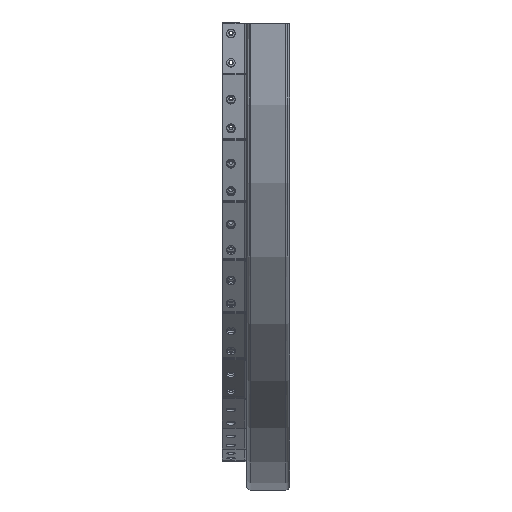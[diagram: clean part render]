
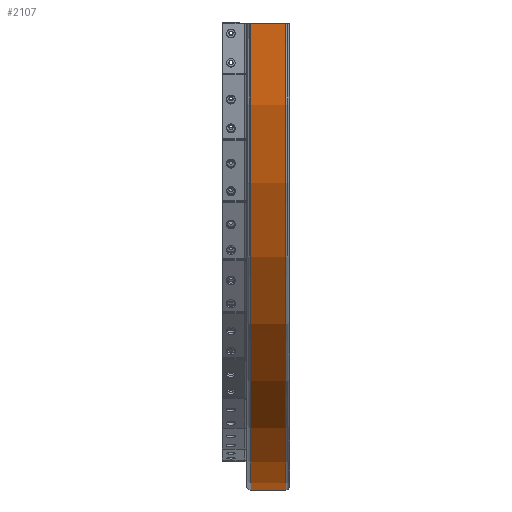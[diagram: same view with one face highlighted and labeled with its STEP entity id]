
A CAD part, left-side view. The second image highlights one B-rep face of the part: STEP entity #2107.
In plain terms, the highlighted cylindrical face has radius 389 mm (diameter 778 mm), a partial arc.
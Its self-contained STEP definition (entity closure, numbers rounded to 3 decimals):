
#2107=ADVANCED_FACE('',(#3591),#2895,.T.);
#2895=CYLINDRICAL_SURFACE('',#18690,389.);
#3591=FACE_OUTER_BOUND('',#4855,.T.);
#4855=EDGE_LOOP('',(#10210,#10211,#10212,#10213));
#6418=LINE('',#30054,#7450);
#6428=LINE('',#30273,#7460);
#7450=VECTOR('',#22501,1.);
#7460=VECTOR('',#22523,1.);
#10210=ORIENTED_EDGE('',*,*,#15656,.T.);
#10211=ORIENTED_EDGE('',*,*,#15512,.T.);
#10212=ORIENTED_EDGE('',*,*,#15657,.F.);
#10213=ORIENTED_EDGE('',*,*,#15487,.T.);
#13628=VERTEX_POINT('',#30053);
#13629=VERTEX_POINT('',#30055);
#13644=VERTEX_POINT('',#30272);
#13645=VERTEX_POINT('',#30274);
#15487=EDGE_CURVE('',#13629,#13628,#6418,.T.);
#15512=EDGE_CURVE('',#13645,#13644,#6428,.T.);
#15656=EDGE_CURVE('',#13628,#13645,#17093,.T.);
#15657=EDGE_CURVE('',#13629,#13644,#17094,.T.);
#17093=CIRCLE('',#18687,389.);
#17094=CIRCLE('',#18689,389.);
#18687=AXIS2_PLACEMENT_3D('',#30802,#22779,#22780);
#18689=AXIS2_PLACEMENT_3D('',#30804,#22783,#22784);
#18690=AXIS2_PLACEMENT_3D('',#30805,#22785,#22786);
#22501=DIRECTION('',(0.,-1.,0.));
#22523=DIRECTION('',(0.,1.,0.));
#22779=DIRECTION('',(0.,1.,0.));
#22780=DIRECTION('',(0.,0.,1.));
#22783=DIRECTION('',(0.,1.,0.));
#22784=DIRECTION('',(0.,0.,1.));
#22785=DIRECTION('',(0.,1.,0.));
#22786=DIRECTION('',(0.,0.,1.));
#30053=CARTESIAN_POINT('',(388.946,-45.,-6.5));
#30054=CARTESIAN_POINT('',(388.946,-47.,-6.5));
#30055=CARTESIAN_POINT('',(388.946,-16.,-6.5));
#30272=CARTESIAN_POINT('',(-388.946,-16.,-6.5));
#30273=CARTESIAN_POINT('',(-388.946,-47.,-6.5));
#30274=CARTESIAN_POINT('',(-388.946,-45.,-6.5));
#30802=CARTESIAN_POINT('',(0.,-45.,0.));
#30804=CARTESIAN_POINT('',(0.,-16.,0.));
#30805=CARTESIAN_POINT('',(0.,-47.,0.));
